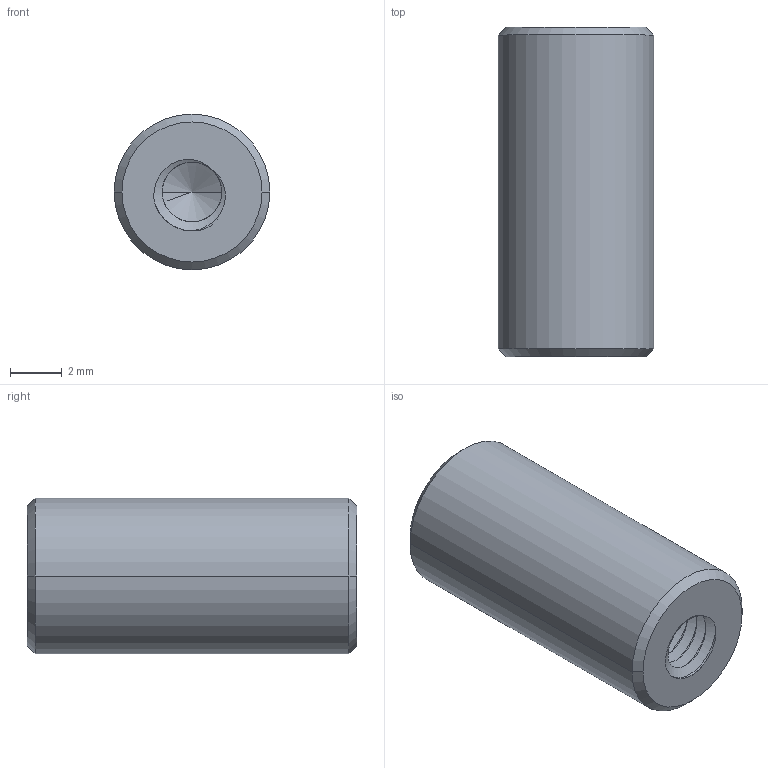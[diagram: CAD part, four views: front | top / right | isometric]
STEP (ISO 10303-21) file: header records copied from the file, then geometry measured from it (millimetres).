
FILE_DESCRIPTION((''),'2;1');
FILE_NAME('PCM-S12_7','2025-02-13T14:04:10',('R&D'),(''),'CREO PARAMETRIC BY PTC INC, 2021063','CREO PARAMETRIC BY PTC INC, 2021063','');
FILE_SCHEMA(('CONFIG_CONTROL_DESIGN'));
Length unit declared in the file: millimetre
Products named in the file (1): PCM-S12_7
Bounding box: 6 x 12.7 x 6 mm (x, y, z)
Volume: 315.6 mm3; surface area: 390.8 mm2
Topology: 1 solids, 1 shells, 51 faces, 136 edges, 85 vertices
Faces by surface type: cylinder 26, bspline 15, cone 8, plane 2
Entity records: 4069 total; most frequent: CARTESIAN_POINT 2964, ORIENTED_EDGE 264, DIRECTION 144, EDGE_CURVE 132, VERTEX_POINT 85, B_SPLINE_CURVE_WITH_KNOTS 74, EDGE_LOOP 53, FACE_OUTER_BOUND 51
